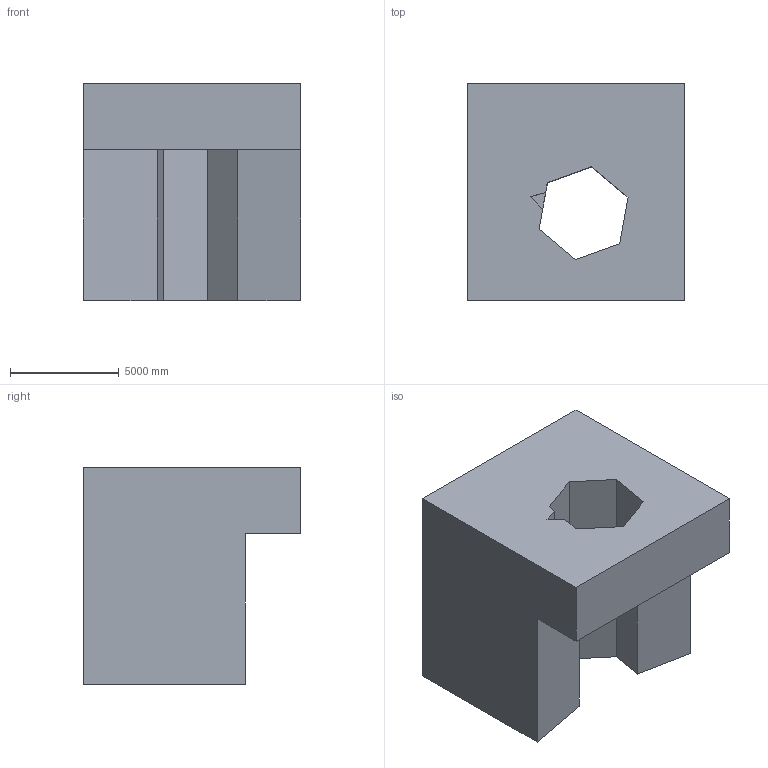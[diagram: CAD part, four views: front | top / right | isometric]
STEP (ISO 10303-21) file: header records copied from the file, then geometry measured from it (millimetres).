
FILE_DESCRIPTION (( 'STEP AP203' ), '1' );
FILE_NAME ('243.STEP', '2022-09-07T12:25:01', ( 'user' ), ( '' ), 'SwSTEP 2.0', 'SolidWorks 2021', '' );
FILE_SCHEMA (( 'CONFIG_CONTROL_DESIGN' ));
Length unit declared in the file: centimetre
Products named in the file (1): 243
Bounding box: 10000 x 10000 x 10000 mm (x, y, z)
Volume: 690532570728.4 mm3; surface area: 613936818.8 mm2
Topology: 1 solids, 1 shells, 18 faces, 51 edges, 34 vertices
Faces by surface type: plane 18
Entity records: 656 total; most frequent: CARTESIAN_POINT 104, ORIENTED_EDGE 102, DIRECTION 89, VECTOR 51, EDGE_CURVE 51, LINE 51, VERTEX_POINT 34, EDGE_LOOP 19
